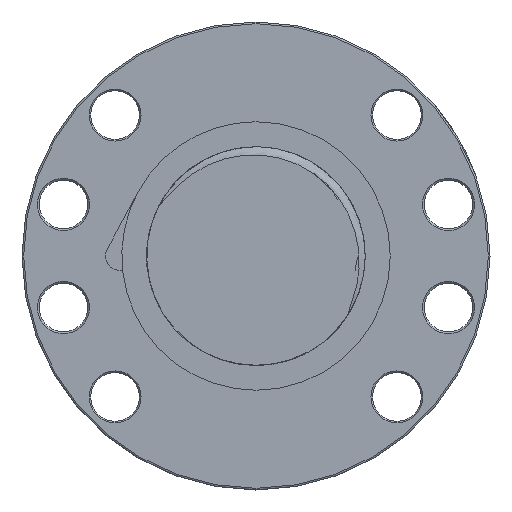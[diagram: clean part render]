
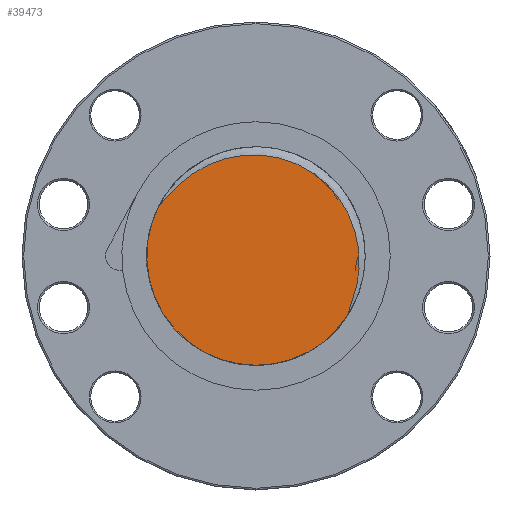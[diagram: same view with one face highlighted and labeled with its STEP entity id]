
A CAD part, left-side view. The second image highlights one B-rep face of the part: STEP entity #39473.
In plain terms, the highlighted planar face has unit normal (-1, 0, 0).
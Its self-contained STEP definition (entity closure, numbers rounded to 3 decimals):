
#283 = CARTESIAN_POINT ( 'NONE',  ( -224., 28.085, 14.264 ) ) ;
#284 = CARTESIAN_POINT ( 'NONE',  ( -224., 27.747, 14.64 ) ) ;
#285 = CARTESIAN_POINT ( 'NONE',  ( -224., 27.424, 15.031 ) ) ;
#286 = CARTESIAN_POINT ( 'NONE',  ( -224., 26.775, 15.808 ) ) ;
#287 = CARTESIAN_POINT ( 'NONE',  ( -224., 26.451, 16.197 ) ) ;
#288 = CARTESIAN_POINT ( 'NONE',  ( -224., 25.464, 17.351 ) ) ;
#289 = CARTESIAN_POINT ( 'NONE',  ( -224., 24.786, 18.107 ) ) ;
#290 = CARTESIAN_POINT ( 'NONE',  ( -224., 22.683, 20.285 ) ) ;
#291 = CARTESIAN_POINT ( 'NONE',  ( -224., 21.185, 21.622 ) ) ;
#292 = CARTESIAN_POINT ( 'NONE',  ( -224., 18.766, 23.421 ) ) ;
#293 = CARTESIAN_POINT ( 'NONE',  ( -224., 17.931, 23.986 ) ) ;
#294 = CARTESIAN_POINT ( 'NONE',  ( -224., 16.633, 24.779 ) ) ;
#295 = CARTESIAN_POINT ( 'NONE',  ( -224., 16.194, 25.034 ) ) ;
#296 = CARTESIAN_POINT ( 'NONE',  ( -224., 15.309, 25.521 ) ) ;
#297 = CARTESIAN_POINT ( 'NONE',  ( -224., 14.862, 25.753 ) ) ;
#298 = CARTESIAN_POINT ( 'NONE',  ( -224., 12.606, 26.86 ) ) ;
#299 = CARTESIAN_POINT ( 'NONE',  ( -224., 10.732, 27.572 ) ) ;
#300 = CARTESIAN_POINT ( 'NONE',  ( -224., 7.813, 28.367 ) ) ;
#301 = CARTESIAN_POINT ( 'NONE',  ( -224., 6.817, 28.587 ) ) ;
#302 = CARTESIAN_POINT ( 'NONE',  ( -224., 4.827, 28.925 ) ) ;
#303 = CARTESIAN_POINT ( 'NONE',  ( -224., 3.83, 29.045 ) ) ;
#304 = CARTESIAN_POINT ( 'NONE',  ( -224., 1.83, 29.187 ) ) ;
#305 = CARTESIAN_POINT ( 'NONE',  ( -224., 0.828, 29.209 ) ) ;
#306 = CARTESIAN_POINT ( 'NONE',  ( -224., -1.181, 29.153 ) ) ;
#307 = CARTESIAN_POINT ( 'NONE',  ( -224., -2.19, 29.076 ) ) ;
#308 = CARTESIAN_POINT ( 'NONE',  ( -224., -5.21, 28.692 ) ) ;
#309 = CARTESIAN_POINT ( 'NONE',  ( -224., -7.165, 28.24 ) ) ;
#310 = CARTESIAN_POINT ( 'NONE',  ( -224., -10.015, 27.278 ) ) ;
#311 = CARTESIAN_POINT ( 'NONE',  ( -224., -10.95, 26.909 ) ) ;
#312 = CARTESIAN_POINT ( 'NONE',  ( -224., -12.332, 26.283 ) ) ;
#313 = CARTESIAN_POINT ( 'NONE',  ( -224., -12.791, 26.062 ) ) ;
#314 = CARTESIAN_POINT ( 'NONE',  ( -224., -13.691, 25.598 ) ) ;
#315 = CARTESIAN_POINT ( 'NONE',  ( -224., -14.134, 25.356 ) ) ;
#316 = CARTESIAN_POINT ( 'NONE',  ( -224., -16.31, 24.094 ) ) ;
#317 = CARTESIAN_POINT ( 'NONE',  ( -224., -17.933, 22.921 ) ) ;
#318 = CARTESIAN_POINT ( 'NONE',  ( -224., -19.816, 21.253 ) ) ;
#319 = CARTESIAN_POINT ( 'NONE',  ( -224., -20.186, 20.909 ) ) ;
#320 = CARTESIAN_POINT ( 'NONE',  ( -224., -20.909, 20.201 ) ) ;
#321 = CARTESIAN_POINT ( 'NONE',  ( -224., -21.264, 19.836 ) ) ;
#322 = CARTESIAN_POINT ( 'NONE',  ( -224., -22.294, 18.722 ) ) ;
#323 = CARTESIAN_POINT ( 'NONE',  ( -224., -22.937, 17.951 ) ) ;
#324 = CARTESIAN_POINT ( 'NONE',  ( -224., -24.747, 15.552 ) ) ;
#325 = CARTESIAN_POINT ( 'NONE',  ( -224., -25.793, 13.843 ) ) ;
#326 = CARTESIAN_POINT ( 'NONE',  ( -224., -26.893, 11.564 ) ) ;
#327 = CARTESIAN_POINT ( 'NONE',  ( -224., -27.103, 11.101 ) ) ;
#328 = CARTESIAN_POINT ( 'NONE',  ( -224., -27.496, 10.17 ) ) ;
#329 = CARTESIAN_POINT ( 'NONE',  ( -224., -27.681, 9.702 ) ) ;
#330 = CARTESIAN_POINT ( 'NONE',  ( -224., -28.199, 8.288 ) ) ;
#331 = CARTESIAN_POINT ( 'NONE',  ( -224., -28.497, 7.335 ) ) ;
#332 = CARTESIAN_POINT ( 'NONE',  ( -224., -29.252, 4.442 ) ) ;
#333 = CARTESIAN_POINT ( 'NONE',  ( -224., -29.571, 2.47 ) ) ;
#334 = CARTESIAN_POINT ( 'NONE',  ( -224., -29.737, -0.05 ) ) ;
#335 = CARTESIAN_POINT ( 'NONE',  ( -224., -29.758, -0.558 ) ) ;
#336 = CARTESIAN_POINT ( 'NONE',  ( -224., -29.778, -1.569 ) ) ;
#337 = CARTESIAN_POINT ( 'NONE',  ( -224., -29.775, -2.073 ) ) ;
#338 = CARTESIAN_POINT ( 'NONE',  ( -224., -29.734, -3.581 ) ) ;
#339 = CARTESIAN_POINT ( 'NONE',  ( -224., -29.662, -4.579 ) ) ;
#340 = CARTESIAN_POINT ( 'NONE',  ( -224., -29.314, -7.554 ) ) ;
#341 = CARTESIAN_POINT ( 'NONE',  ( -224., -28.906, -9.512 ) ) ;
#342 = CARTESIAN_POINT ( 'NONE',  ( -224., -28.073, -12.416 ) ) ;
#343 = CARTESIAN_POINT ( 'NONE',  ( -224., -27.757, -13.38 ) ) ;
#344 = CARTESIAN_POINT ( 'NONE',  ( -224., -27.252, -14.81 ) ) ;
#345 = CARTESIAN_POINT ( 'NONE',  ( -224., -27.078, -15.285 ) ) ;
#346 = CARTESIAN_POINT ( 'NONE',  ( -224., -26.729, -16.235 ) ) ;
#347 = CARTESIAN_POINT ( 'NONE',  ( -224., -26.553, -16.709 ) ) ;
#348 = CARTESIAN_POINT ( 'NONE',  ( -224., -26.396, -17.19 ) ) ;
#349 = B_SPLINE_CURVE_WITH_KNOTS ( 'NONE', 3,
 ( #348, #347, #346, #345, #344, #343, #342, #341, #340, #339, #338, #337, #336, #335, #334, #333, #332, #331, #330, #329, #328, #327, #326, #325, #324, #323, #322, #321, #320, #319, #318, #317, #316, #315, #314, #313, #312, #311, #310, #309, #308, #307, #306, #305, #304, #303, #302, #301, #300, #299, #298, #297, #296, #295, #294, #293, #292, #291, #290, #289, #288, #287, #286, #285, #284, #283 ),
 .UNSPECIFIED., .F., .F.,
 ( 4, 2, 2, 2, 2, 2, 2, 2, 2, 2, 2, 2, 2, 2, 2, 2, 2, 2, 2, 2, 2, 2, 2, 2, 2, 2, 2, 2, 2, 2, 2, 2, 4 ),
 ( 0.011, 0.012, 0.014, 0.017, 0.023, 0.026, 0.027, 0.029, 0.035, 0.038, 0.039, 0.041, 0.047, 0.05, 0.051, 0.053, 0.059, 0.06, 0.062, 0.065, 0.071, 0.074, 0.077, 0.08, 0.083, 0.089, 0.09, 0.092, 0.095, 0.101, 0.104, 0.105, 0.107 ),
 .UNSPECIFIED. ) ;
#11086 = DIRECTION ( 'NONE',  ( 0., 0., -1. ) ) ;
#11088 = DIRECTION ( 'NONE',  ( 1., 0., 0. ) ) ;
#11089 = CARTESIAN_POINT ( 'NONE',  ( -224., 0., 0. ) ) ;
#11091 = AXIS2_PLACEMENT_3D ( 'NONE', #11089, #11088, #11086 ) ;
#11093 = PLANE ( 'NONE',  #11091 ) ;
#11107 = FACE_OUTER_BOUND ( 'NONE', #34668, .T. ) ;
#29166 = VERTEX_POINT ( 'NONE', #41161 ) ;
#29223 = VERTEX_POINT ( 'NONE', #41660 ) ;
#29229 = EDGE_CURVE ( 'NONE', #29223, #29166, #41750, .T. ) ;
#29312 = EDGE_CURVE ( 'NONE', #29313, #29223, #42526, .T. ) ;
#29313 = VERTEX_POINT ( 'NONE', #42516 ) ;
#34668 = EDGE_LOOP ( 'NONE', ( #34767, #35063, #35319 ) ) ;
#34767 = ORIENTED_EDGE ( 'NONE', *, *, #29312, .F. ) ;
#35063 = ORIENTED_EDGE ( 'NONE', *, *, #35178, .T. ) ;
#35178 = EDGE_CURVE ( 'NONE', #29313, #29166, #349, .T. ) ;
#35319 = ORIENTED_EDGE ( 'NONE', *, *, #29229, .F. ) ;
#39473 = ADVANCED_FACE ( 'NONE', ( #11107 ), #11093, .F. ) ;
#41161 = CARTESIAN_POINT ( 'NONE',  ( -224., 28.085, 14.264 ) ) ;
#41660 = CARTESIAN_POINT ( 'NONE',  ( -224., 0., -31.5 ) ) ;
#41741 = DIRECTION ( 'NONE',  ( 0., 1., 0. ) ) ;
#41742 = DIRECTION ( 'NONE',  ( 1., 0., 0. ) ) ;
#41743 = CARTESIAN_POINT ( 'NONE',  ( -224., 0., 0. ) ) ;
#41744 = AXIS2_PLACEMENT_3D ( 'NONE', #41743, #41742, #41741 ) ;
#41750 = CIRCLE ( 'NONE', #41744, 31.5 ) ;
#42516 = CARTESIAN_POINT ( 'NONE',  ( -224., -26.396, -17.19 ) ) ;
#42517 = DIRECTION ( 'NONE',  ( 0., 1., 0. ) ) ;
#42518 = DIRECTION ( 'NONE',  ( 1., 0., 0. ) ) ;
#42519 = CARTESIAN_POINT ( 'NONE',  ( -224., 0., 0. ) ) ;
#42520 = AXIS2_PLACEMENT_3D ( 'NONE', #42519, #42518, #42517 ) ;
#42526 = CIRCLE ( 'NONE', #42520, 31.5 ) ;
